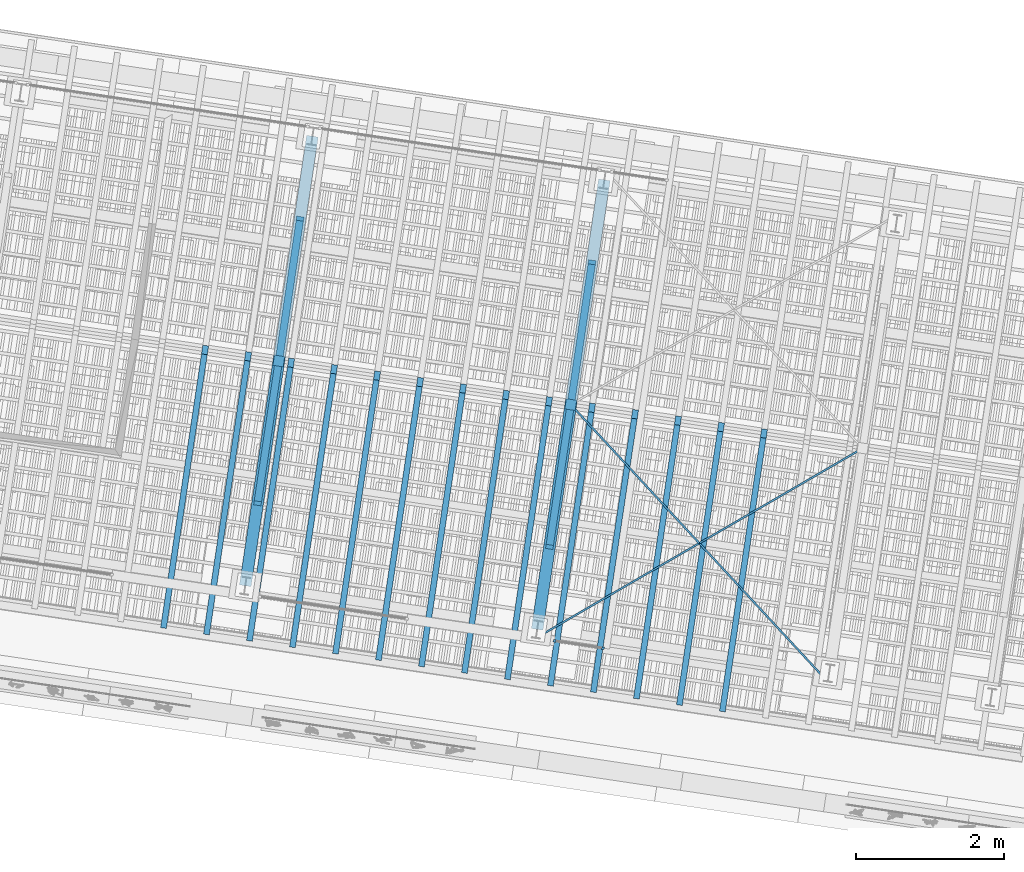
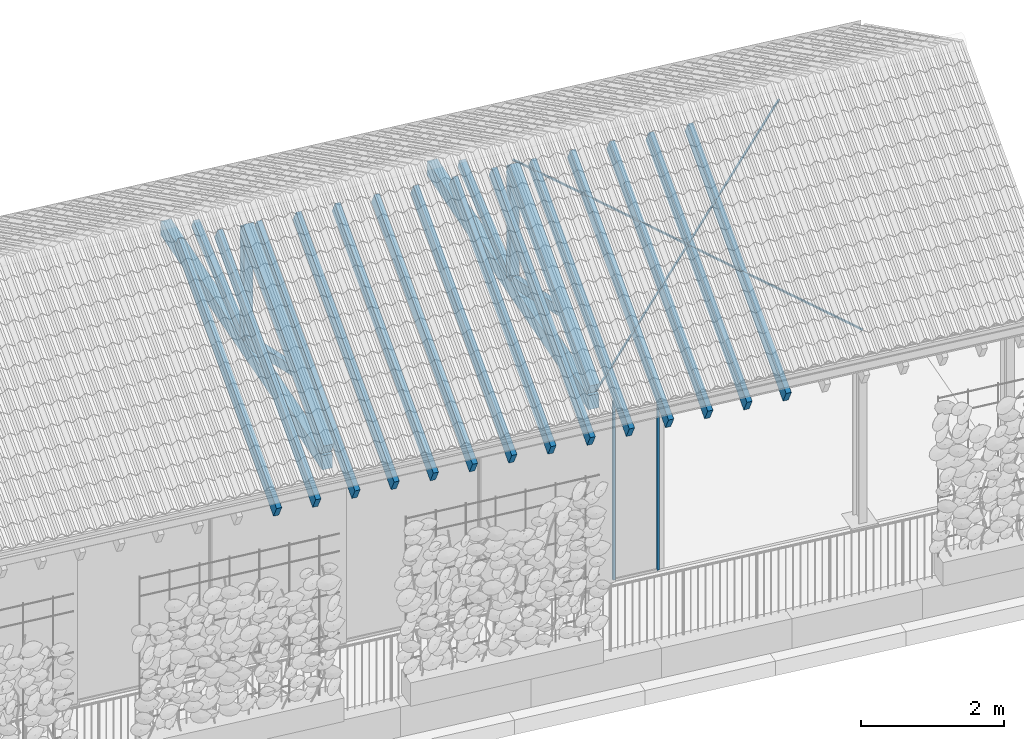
# One storey, part 91 of 128: 26 members, 2 beams, 1 element without a shape of its own.
"""IFC4 building model written with IfcOpenShell, lengths in metres."""

from ifc_helpers import new_model, si_unit, direction, frame, origin_with_axes, place, context, subcontext, project, spatial, rectangle, extrude, material, material_profile, profile_set, profile_usage, type_object, element, aggregate, save


model = new_model("IFC4")

# Units and contexts
model_context = context("Model", 3, precision=1e-05, world=origin_with_axes(), true_north=direction((0.0, 1.0)))
body_context = subcontext(model_context, "Body", "Model", "MODEL_VIEW")
ifc_project = project(units=[si_unit("VOLUMEUNIT", "CUBIC_METRE"), si_unit("LENGTHUNIT", "METRE"), si_unit("AREAUNIT", "SQUARE_METRE")], contexts=[model_context])

# Site, building, storey
site_placement = place(None, origin_with_axes())
site = spatial("IfcSite", under=ifc_project, at=site_placement, Name="Lares · Rua das Mercês · artigo 4771")
building_placement = place(site_placement, frame((15.0, 9.7, 13.9), z_axis=(0.0, 0.0, 1.0), x_axis=(0.989015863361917, -0.147809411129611, 0.0)))
building = spatial("IfcBuilding", under=site, at=building_placement, Name="Casa Sobreposta")
storey_placement = place(building_placement, origin_with_axes())
storey = spatial("IfcBuildingStorey", under=building, at=storey_placement, Name="00 · Habitação e estacionamento", Elevation=13.9)

# Members
ifc_material_1 = material(Name="Aço pintado / Stahl lackiert", Category="steel")
ifc_material_profile_1 = material_profile(ifc_material_1, rectangle(XDim=0.035, YDim=0.035))
ifc_profile_set_1 = profile_set([ifc_material_profile_1], Name="R0.035")
ifc_profile_usage_1 = profile_usage(ifc_profile_set_1)
member_type_1 = type_object("IfcMemberType", Name="R0.035 / steel", PredefinedType="NOTDEFINED", material=ifc_profile_set_1)
member_1_placement = place(storey_placement, frame((24.256, 0.0, 0.0), z_axis=(0.0, 0.0, 1.0), x_axis=(1.0, 0.0, 0.0)))
element("IfcMember", 1, at=member_1_placement, inside=storey, type_object=member_type_1, material=ifc_profile_usage_1, Name="Folha de correr sul 12 · montante", context=body_context, shape_type="SweptSolid", body=[
    extrude(rectangle(XDim=0.035, YDim=0.035), origin_with_axes(), (0.0, 0.0, 1.0), 3.05),
])
ifc_profile_usage_2 = profile_usage(ifc_profile_set_1)
member_2_placement = place(storey_placement, frame((24.92, 0.0, 0.0), z_axis=(0.0, 0.0, 1.0), x_axis=(1.0, 0.0, 0.0)))
element("IfcMember", 2, at=member_2_placement, inside=storey, type_object=member_type_1, material=ifc_profile_usage_2, Name="Folha de correr sul 12 · montante", context=body_context, shape_type="SweptSolid", body=[
    extrude(rectangle(XDim=0.035, YDim=0.035), origin_with_axes(), (0.0, 0.0, 1.0), 3.05),
])

# Roof, beams, members
ifc_material_2 = material(Name="Madeira / Bauholz", Category="wood")
roof_placement = place(storey_placement, origin_with_axes())
roof = element("IfcRoof", 3, at=roof_placement, inside=storey, material=ifc_material_2, Name="Cobertura de telha · duas águas 30 graus", PredefinedType="GABLE_ROOF")
ifc_material_profile_2 = material_profile(ifc_material_2, rectangle(XDim=0.16, YDim=0.24))
ifc_profile_set_2 = profile_set([ifc_material_profile_2], Name="TIMBER0.160x0.240")
ifc_profile_usage_3 = profile_usage(ifc_profile_set_2)
beam_type = type_object("IfcBeamType", Name="TIMBER0.160x0.240 / timber", PredefinedType="NOTDEFINED", material=ifc_profile_set_2)
beam_1_placement = place(roof_placement, frame((20.0, 0.12, 3.02), z_axis=(0.0, 1.0, 0.0), x_axis=(1.0, 0.0, 0.0)))
beam_1 = element("IfcBeam", 4, at=beam_1_placement, type_object=beam_type, material=ifc_profile_usage_3, Name="Tesoura · tirante inferior", context=body_context, shape_type="SweptSolid", body=[
    extrude(rectangle(XDim=0.16, YDim=0.24), origin_with_axes(), (0.0, 0.0, 1.0), 6.16),
])
ifc_profile_usage_4 = profile_usage(ifc_profile_set_2)
beam_2_placement = place(roof_placement, frame((24.0, 0.12, 3.02), z_axis=(0.0, 1.0, 0.0), x_axis=(1.0, 0.0, 0.0)))
beam_2 = element("IfcBeam", 5, at=beam_2_placement, type_object=beam_type, material=ifc_profile_usage_4, Name="Tesoura · tirante inferior", context=body_context, shape_type="SweptSolid", body=[
    extrude(rectangle(XDim=0.16, YDim=0.24), origin_with_axes(), (0.0, 0.0, 1.0), 6.16),
])
ifc_material_profile_3 = material_profile(ifc_material_2, rectangle(XDim=0.16, YDim=0.24))
ifc_profile_set_3 = profile_set([ifc_material_profile_3], Name="TIMBER0.160x0.240")
ifc_profile_usage_5 = profile_usage(ifc_profile_set_3)
member_type_2 = type_object("IfcMemberType", Name="TIMBER0.160x0.240 / timber", PredefinedType="NOTDEFINED", material=ifc_profile_set_3)
member_3_placement = place(roof_placement, frame((20.0, 0.12, 3.24428203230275), z_axis=(0.0, 0.866025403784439, 0.5), x_axis=(1.0, 0.0, 0.0)))
member_3 = element("IfcMember", 6, at=member_3_placement, type_object=member_type_2, material=ifc_profile_usage_5, Name="Tesoura · perna", context=body_context, shape_type="SweptSolid", body=[
    extrude(rectangle(XDim=0.16, YDim=0.24), origin_with_axes(), (0.0, 0.0, 1.0), 3.5564776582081),
])
ifc_profile_usage_6 = profile_usage(ifc_profile_set_3)
member_4_placement = place(roof_placement, frame((24.0, 0.12, 3.24428203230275), z_axis=(0.0, 0.866025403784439, 0.5), x_axis=(1.0, 0.0, 0.0)))
member_4 = element("IfcMember", 7, at=member_4_placement, type_object=member_type_2, material=ifc_profile_usage_6, Name="Tesoura · perna", context=body_context, shape_type="SweptSolid", body=[
    extrude(rectangle(XDim=0.16, YDim=0.24), origin_with_axes(), (0.0, 0.0, 1.0), 3.5564776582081),
])
ifc_material_profile_4 = material_profile(ifc_material_2, rectangle(XDim=0.14, YDim=0.14))
ifc_profile_set_4 = profile_set([ifc_material_profile_4], Name="TIMBER0.140x0.140")
ifc_profile_usage_7 = profile_usage(ifc_profile_set_4)
member_type_3 = type_object("IfcMemberType", Name="TIMBER0.140x0.140 / timber", PredefinedType="NOTDEFINED", material=ifc_profile_set_4)
member_5_placement = place(roof_placement, frame((20.0, 3.2, 3.02), z_axis=(0.0, 0.0, 1.0), x_axis=(1.0, 0.0, 0.0)))
member_5 = element("IfcMember", 8, at=member_5_placement, type_object=member_type_3, material=ifc_profile_usage_7, Name="Tesoura · pendural", context=body_context, shape_type="SweptSolid", body=[
    extrude(rectangle(XDim=0.14, YDim=0.14), origin_with_axes(), (0.0, 0.0, 1.0), 2.0025208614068),
])
ifc_profile_usage_8 = profile_usage(ifc_profile_set_4)
member_6_placement = place(roof_placement, frame((24.0, 3.2, 3.02), z_axis=(0.0, 0.0, 1.0), x_axis=(1.0, 0.0, 0.0)))
member_6 = element("IfcMember", 9, at=member_6_placement, type_object=member_type_3, material=ifc_profile_usage_8, Name="Tesoura · pendural", context=body_context, shape_type="SweptSolid", body=[
    extrude(rectangle(XDim=0.14, YDim=0.14), origin_with_axes(), (0.0, 0.0, 1.0), 2.0025208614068),
])
ifc_material_profile_5 = material_profile(ifc_material_2, rectangle(XDim=0.1, YDim=0.16))
ifc_profile_set_5 = profile_set([ifc_material_profile_5], Name="TIMBER0.100x0.160")
ifc_profile_usage_9 = profile_usage(ifc_profile_set_5)
member_type_4 = type_object("IfcMemberType", Name="TIMBER0.100x0.160 / timber", PredefinedType="NOTDEFINED", material=ifc_profile_set_5)
member_7_placement = place(roof_placement, frame((20.0, 3.2, 3.1), z_axis=(0.0, -0.937832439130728, 0.347088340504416), x_axis=(-1.0, 0.0, 0.0)))
member_7 = element("IfcMember", 10, at=member_7_placement, type_object=member_type_4, material=ifc_profile_usage_9, Name="Tesoura · escora", context=body_context, shape_type="SweptSolid", body=[
    extrude(rectangle(XDim=0.1, YDim=0.16), origin_with_axes(), (0.0, 0.0, 1.0), 2.07926268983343),
])
ifc_profile_usage_10 = profile_usage(ifc_profile_set_5)
member_8_placement = place(roof_placement, frame((20.0, 3.2, 3.1), z_axis=(0.0, 0.937832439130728, 0.347088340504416), x_axis=(1.0, 0.0, 0.0)))
member_8 = element("IfcMember", 11, at=member_8_placement, type_object=member_type_4, material=ifc_profile_usage_10, Name="Tesoura · escora", context=body_context, shape_type="SweptSolid", body=[
    extrude(rectangle(XDim=0.1, YDim=0.16), origin_with_axes(), (0.0, 0.0, 1.0), 2.07926268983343),
])
ifc_profile_usage_11 = profile_usage(ifc_profile_set_5)
member_9_placement = place(roof_placement, frame((24.0, 3.2, 3.1), z_axis=(0.0, -0.937832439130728, 0.347088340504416), x_axis=(-1.0, 0.0, 0.0)))
member_9 = element("IfcMember", 12, at=member_9_placement, type_object=member_type_4, material=ifc_profile_usage_11, Name="Tesoura · escora", context=body_context, shape_type="SweptSolid", body=[
    extrude(rectangle(XDim=0.1, YDim=0.16), origin_with_axes(), (0.0, 0.0, 1.0), 2.07926268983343),
])
ifc_profile_usage_12 = profile_usage(ifc_profile_set_5)
member_10_placement = place(roof_placement, frame((24.0, 3.2, 3.1), z_axis=(0.0, 0.937832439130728, 0.347088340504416), x_axis=(1.0, 0.0, 0.0)))
member_10 = element("IfcMember", 13, at=member_10_placement, type_object=member_type_4, material=ifc_profile_usage_12, Name="Tesoura · escora", context=body_context, shape_type="SweptSolid", body=[
    extrude(rectangle(XDim=0.1, YDim=0.16), origin_with_axes(), (0.0, 0.0, 1.0), 2.07926268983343),
])
ifc_material_profile_6 = material_profile(ifc_material_2, rectangle(XDim=0.08, YDim=0.24))
ifc_profile_set_6 = profile_set([ifc_material_profile_6], Name="TIMBER0.080x0.240")
ifc_profile_usage_13 = profile_usage(ifc_profile_set_6)
member_type_5 = type_object("IfcMemberType", Name="TIMBER0.080x0.240 / timber", PredefinedType="NOTDEFINED", material=ifc_profile_set_6)
member_11_placement = place(roof_placement, frame((18.9888679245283, -0.55, 2.86345735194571), z_axis=(0.0, 0.866025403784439, 0.5), x_axis=(1.0, 0.0, 0.0)))
member_11 = element("IfcMember", 14, at=member_11_placement, type_object=member_type_5, material=ifc_profile_usage_13, Name="Cobertura · caibro", context=body_context, shape_type="SweptSolid", body=[
    extrude(rectangle(XDim=0.08, YDim=0.24), origin_with_axes(), (0.0, 0.0, 1.0), 4.33012701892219),
])
ifc_profile_usage_14 = profile_usage(ifc_profile_set_6)
member_12_placement = place(roof_placement, frame((19.5779245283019, -0.55, 2.86345735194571), z_axis=(0.0, 0.866025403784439, 0.5), x_axis=(1.0, 0.0, 0.0)))
member_12 = element("IfcMember", 15, at=member_12_placement, type_object=member_type_5, material=ifc_profile_usage_14, Name="Cobertura · caibro", context=body_context, shape_type="SweptSolid", body=[
    extrude(rectangle(XDim=0.08, YDim=0.24), origin_with_axes(), (0.0, 0.0, 1.0), 4.33012701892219),
])
ifc_profile_usage_15 = profile_usage(ifc_profile_set_6)
member_13_placement = place(roof_placement, frame((20.1669811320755, -0.55, 2.86345735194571), z_axis=(0.0, 0.866025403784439, 0.5), x_axis=(1.0, 0.0, 0.0)))
member_13 = element("IfcMember", 16, at=member_13_placement, type_object=member_type_5, material=ifc_profile_usage_15, Name="Cobertura · caibro", context=body_context, shape_type="SweptSolid", body=[
    extrude(rectangle(XDim=0.08, YDim=0.24), origin_with_axes(), (0.0, 0.0, 1.0), 4.33012701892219),
])
ifc_profile_usage_16 = profile_usage(ifc_profile_set_6)
member_14_placement = place(roof_placement, frame((20.7560377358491, -0.55, 2.86345735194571), z_axis=(0.0, 0.866025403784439, 0.5), x_axis=(1.0, 0.0, 0.0)))
member_14 = element("IfcMember", 17, at=member_14_placement, type_object=member_type_5, material=ifc_profile_usage_16, Name="Cobertura · caibro", context=body_context, shape_type="SweptSolid", body=[
    extrude(rectangle(XDim=0.08, YDim=0.24), origin_with_axes(), (0.0, 0.0, 1.0), 4.33012701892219),
])
ifc_profile_usage_17 = profile_usage(ifc_profile_set_6)
member_15_placement = place(roof_placement, frame((21.3450943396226, -0.55, 2.86345735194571), z_axis=(0.0, 0.866025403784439, 0.5), x_axis=(1.0, 0.0, 0.0)))
member_15 = element("IfcMember", 18, at=member_15_placement, type_object=member_type_5, material=ifc_profile_usage_17, Name="Cobertura · caibro", context=body_context, shape_type="SweptSolid", body=[
    extrude(rectangle(XDim=0.08, YDim=0.24), origin_with_axes(), (0.0, 0.0, 1.0), 4.33012701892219),
])
ifc_profile_usage_18 = profile_usage(ifc_profile_set_6)
member_16_placement = place(roof_placement, frame((21.9341509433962, -0.55, 2.86345735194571), z_axis=(0.0, 0.866025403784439, 0.5), x_axis=(1.0, 0.0, 0.0)))
member_16 = element("IfcMember", 19, at=member_16_placement, type_object=member_type_5, material=ifc_profile_usage_18, Name="Cobertura · caibro", context=body_context, shape_type="SweptSolid", body=[
    extrude(rectangle(XDim=0.08, YDim=0.24), origin_with_axes(), (0.0, 0.0, 1.0), 4.33012701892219),
])
ifc_profile_usage_19 = profile_usage(ifc_profile_set_6)
member_17_placement = place(roof_placement, frame((22.5232075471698, -0.55, 2.86345735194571), z_axis=(0.0, 0.866025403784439, 0.5), x_axis=(1.0, 0.0, 0.0)))
member_17 = element("IfcMember", 20, at=member_17_placement, type_object=member_type_5, material=ifc_profile_usage_19, Name="Cobertura · caibro", context=body_context, shape_type="SweptSolid", body=[
    extrude(rectangle(XDim=0.08, YDim=0.24), origin_with_axes(), (0.0, 0.0, 1.0), 4.33012701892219),
])
ifc_profile_usage_20 = profile_usage(ifc_profile_set_6)
member_18_placement = place(roof_placement, frame((23.1122641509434, -0.55, 2.86345735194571), z_axis=(0.0, 0.866025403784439, 0.5), x_axis=(1.0, 0.0, 0.0)))
member_18 = element("IfcMember", 21, at=member_18_placement, type_object=member_type_5, material=ifc_profile_usage_20, Name="Cobertura · caibro", context=body_context, shape_type="SweptSolid", body=[
    extrude(rectangle(XDim=0.08, YDim=0.24), origin_with_axes(), (0.0, 0.0, 1.0), 4.33012701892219),
])
ifc_profile_usage_21 = profile_usage(ifc_profile_set_6)
member_19_placement = place(roof_placement, frame((23.701320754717, -0.55, 2.86345735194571), z_axis=(0.0, 0.866025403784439, 0.5), x_axis=(1.0, 0.0, 0.0)))
member_19 = element("IfcMember", 22, at=member_19_placement, type_object=member_type_5, material=ifc_profile_usage_21, Name="Cobertura · caibro", context=body_context, shape_type="SweptSolid", body=[
    extrude(rectangle(XDim=0.08, YDim=0.24), origin_with_axes(), (0.0, 0.0, 1.0), 4.33012701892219),
])
ifc_profile_usage_22 = profile_usage(ifc_profile_set_6)
member_20_placement = place(roof_placement, frame((24.2903773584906, -0.55, 2.86345735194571), z_axis=(0.0, 0.866025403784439, 0.5), x_axis=(1.0, 0.0, 0.0)))
member_20 = element("IfcMember", 23, at=member_20_placement, type_object=member_type_5, material=ifc_profile_usage_22, Name="Cobertura · caibro", context=body_context, shape_type="SweptSolid", body=[
    extrude(rectangle(XDim=0.08, YDim=0.24), origin_with_axes(), (0.0, 0.0, 1.0), 4.33012701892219),
])
ifc_profile_usage_23 = profile_usage(ifc_profile_set_6)
member_21_placement = place(roof_placement, frame((24.8794339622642, -0.55, 2.86345735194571), z_axis=(0.0, 0.866025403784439, 0.5), x_axis=(1.0, 0.0, 0.0)))
member_21 = element("IfcMember", 24, at=member_21_placement, type_object=member_type_5, material=ifc_profile_usage_23, Name="Cobertura · caibro", context=body_context, shape_type="SweptSolid", body=[
    extrude(rectangle(XDim=0.08, YDim=0.24), origin_with_axes(), (0.0, 0.0, 1.0), 4.33012701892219),
])
ifc_profile_usage_24 = profile_usage(ifc_profile_set_6)
member_22_placement = place(roof_placement, frame((25.4684905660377, -0.55, 2.86345735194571), z_axis=(0.0, 0.866025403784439, 0.5), x_axis=(1.0, 0.0, 0.0)))
member_22 = element("IfcMember", 25, at=member_22_placement, type_object=member_type_5, material=ifc_profile_usage_24, Name="Cobertura · caibro", context=body_context, shape_type="SweptSolid", body=[
    extrude(rectangle(XDim=0.08, YDim=0.24), origin_with_axes(), (0.0, 0.0, 1.0), 4.33012701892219),
])
ifc_profile_usage_25 = profile_usage(ifc_profile_set_6)
member_23_placement = place(roof_placement, frame((26.0575471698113, -0.55, 2.86345735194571), z_axis=(0.0, 0.866025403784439, 0.5), x_axis=(1.0, 0.0, 0.0)))
member_23 = element("IfcMember", 26, at=member_23_placement, type_object=member_type_5, material=ifc_profile_usage_25, Name="Cobertura · caibro", context=body_context, shape_type="SweptSolid", body=[
    extrude(rectangle(XDim=0.08, YDim=0.24), origin_with_axes(), (0.0, 0.0, 1.0), 4.33012701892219),
])
ifc_profile_usage_26 = profile_usage(ifc_profile_set_6)
member_24_placement = place(roof_placement, frame((26.6466037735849, -0.55, 2.86345735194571), z_axis=(0.0, 0.866025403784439, 0.5), x_axis=(1.0, 0.0, 0.0)))
member_24 = element("IfcMember", 27, at=member_24_placement, type_object=member_type_5, material=ifc_profile_usage_26, Name="Cobertura · caibro", context=body_context, shape_type="SweptSolid", body=[
    extrude(rectangle(XDim=0.08, YDim=0.24), origin_with_axes(), (0.0, 0.0, 1.0), 4.33012701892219),
])
ifc_material_3 = material(Name="Aço galvanizado / Stahl verzinkt", Category="steel")
ifc_material_profile_7 = material_profile(ifc_material_3, rectangle(XDim=0.025, YDim=0.025))
ifc_profile_set_7 = profile_set([ifc_material_profile_7], Name="R0.025")
ifc_profile_usage_27 = profile_usage(ifc_profile_set_7)
member_type_6 = type_object("IfcMemberType", Name="R0.025 / galvanized", PredefinedType="NOTDEFINED", material=ifc_profile_set_7)
member_25_placement = place(roof_placement, frame((24.0, 0.0, 3.302), z_axis=(0.734553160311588, 0.58764252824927, 0.339275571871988), x_axis=(0.624695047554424, -0.78086880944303, 0.0)))
member_25 = element("IfcMember", 28, at=member_25_placement, type_object=member_type_6, material=ifc_profile_usage_27, Name="Cobertura · fita de contraventamento", context=body_context, shape_type="SweptSolid", body=[
    extrude(rectangle(XDim=0.025, YDim=0.025), origin_with_axes(), (0.0, 0.0, 1.0), 5.44548742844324),
])
ifc_profile_usage_28 = profile_usage(ifc_profile_set_7)
member_26_placement = place(roof_placement, frame((24.0, 3.2, 5.1495208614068), z_axis=(0.734553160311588, -0.58764252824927, -0.339275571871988), x_axis=(-0.624695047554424, -0.78086880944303, 0.0)))
member_26 = element("IfcMember", 29, at=member_26_placement, type_object=member_type_6, material=ifc_profile_usage_28, Name="Cobertura · fita de contraventamento", context=body_context, shape_type="SweptSolid", body=[
    extrude(rectangle(XDim=0.025, YDim=0.025), origin_with_axes(), (0.0, 0.0, 1.0), 5.44548742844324),
])
aggregate(roof, [beam_1, member_3, member_5, member_7, member_8, beam_2, member_4, member_6, member_9, member_10, member_11, member_12, member_13, member_14, member_15, member_16, member_17, member_18, member_19, member_20, member_21, member_22, member_23, member_24, member_25, member_26])

save(model, "model.ifc")
